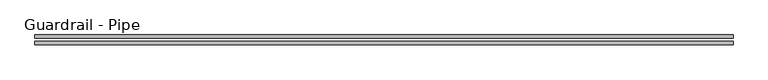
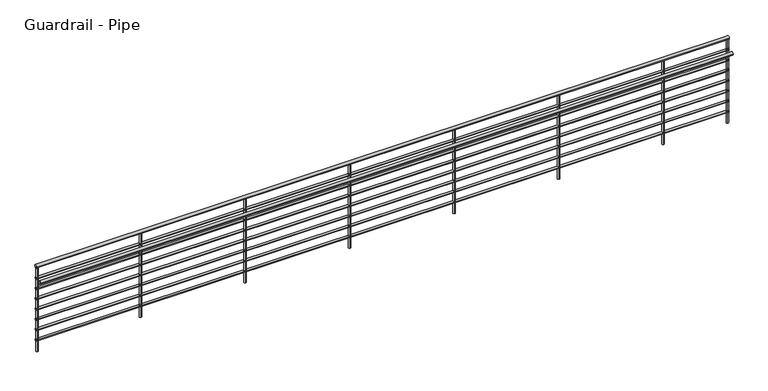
"""IFC4 building model written with IfcOpenShell, lengths in millimetres: railing geometry, Guardrail - Pipe."""

from ifc_helpers import new_model, si_unit, point, frame, frame_2d, origin, place, context, project, spatial, circle_curve, trimmed, segment, composite_curve, outline, extrude, source, transform, mapped, element, save


def guardrail_pipe_171f1288(model_context):
    return source(origin(), model_context, "Body", "SweptSolid", [
        extrude(outline(composite_curve([segment(trimmed(circle_curve(frame_2d((-540.1188057, 4400.55)), 19.05), [point((-559.1688057, 4400.55))], [point((-521.0688057, 4400.55))], False, "CARTESIAN"), True, "CONTINUOUS"), segment(trimmed(circle_curve(frame_2d((-540.1188057, 4400.55)), 19.05), [point((-521.0688057, 4400.55))], [point((-559.1688057, 4400.55))], False, "CARTESIAN"), True, "CONTINUOUS")], self_intersect=False)), frame((-21100.2602721, 0.0, 0.0), z_axis=(1.0, 0.0, 0.0), x_axis=(0.0, 1.0, 0.0)), (0.0, 0.0, 1.0), 8077.2),
        extrude(outline(composite_curve([segment(trimmed(circle_curve(frame_2d((-540.1188057, 4254.5)), 12.7), [point((-552.8188057, 4254.5))], [point((-527.4188057, 4254.5))], False, "CARTESIAN"), True, "CONTINUOUS"), segment(trimmed(circle_curve(frame_2d((-540.1188057, 4254.5)), 12.7), [point((-527.4188057, 4254.5))], [point((-552.8188057, 4254.5))], False, "CARTESIAN"), True, "CONTINUOUS")], self_intersect=False)), frame((-21100.2602721, 0.0, 0.0), z_axis=(1.0, 0.0, 0.0), x_axis=(0.0, 1.0, 0.0)), (0.0, 0.0, 1.0), 8077.2),
        extrude(outline(composite_curve([segment(trimmed(circle_curve(frame_2d((-616.3188057, 4248.15)), 19.05), [point((-635.3688057, 4248.15))], [point((-597.2688057, 4248.15))], False, "CARTESIAN"), True, "CONTINUOUS"), segment(trimmed(circle_curve(frame_2d((-616.3188057, 4248.15)), 19.05), [point((-597.2688057, 4248.15))], [point((-635.3688057, 4248.15))], False, "CARTESIAN"), True, "CONTINUOUS")], self_intersect=False)), frame((-21100.2602721, 0.0, 0.0), z_axis=(1.0, 0.0, 0.0), x_axis=(0.0, 1.0, 0.0)), (0.0, 0.0, 1.0), 8077.2),
        extrude(outline(composite_curve([segment(trimmed(circle_curve(frame_2d((-540.1188057, 4127.5)), 12.7), [point((-552.8188057, 4127.5))], [point((-527.4188057, 4127.5))], False, "CARTESIAN"), True, "CONTINUOUS"), segment(trimmed(circle_curve(frame_2d((-540.1188057, 4127.5)), 12.7), [point((-527.4188057, 4127.5))], [point((-552.8188057, 4127.5))], False, "CARTESIAN"), True, "CONTINUOUS")], self_intersect=False)), frame((-21100.2602721, 0.0, 0.0), z_axis=(1.0, 0.0, 0.0), x_axis=(0.0, 1.0, 0.0)), (0.0, 0.0, 1.0), 8077.2),
        extrude(outline(composite_curve([segment(trimmed(circle_curve(frame_2d((-540.1188057, 4000.5)), 12.7), [point((-552.8188057, 4000.5))], [point((-527.4188057, 4000.5))], False, "CARTESIAN"), True, "CONTINUOUS"), segment(trimmed(circle_curve(frame_2d((-540.1188057, 4000.5)), 12.7), [point((-527.4188057, 4000.5))], [point((-552.8188057, 4000.5))], False, "CARTESIAN"), True, "CONTINUOUS")], self_intersect=False)), frame((-21100.2602721, 0.0, 0.0), z_axis=(1.0, 0.0, 0.0), x_axis=(0.0, 1.0, 0.0)), (0.0, 0.0, 1.0), 8077.2),
        extrude(outline(composite_curve([segment(trimmed(circle_curve(frame_2d((-540.1188057, 3873.5)), 12.7), [point((-552.8188057, 3873.5))], [point((-527.4188057, 3873.5))], False, "CARTESIAN"), True, "CONTINUOUS"), segment(trimmed(circle_curve(frame_2d((-540.1188057, 3873.5)), 12.7), [point((-527.4188057, 3873.5))], [point((-552.8188057, 3873.5))], False, "CARTESIAN"), True, "CONTINUOUS")], self_intersect=False)), frame((-21100.2602721, 0.0, 0.0), z_axis=(1.0, 0.0, 0.0), x_axis=(0.0, 1.0, 0.0)), (0.0, 0.0, 1.0), 8077.2),
        extrude(outline(composite_curve([segment(trimmed(circle_curve(frame_2d((-540.1188057, 3746.5)), 12.7), [point((-552.8188057, 3746.5))], [point((-527.4188057, 3746.5))], False, "CARTESIAN"), True, "CONTINUOUS"), segment(trimmed(circle_curve(frame_2d((-540.1188057, 3746.5)), 12.7), [point((-527.4188057, 3746.5))], [point((-552.8188057, 3746.5))], False, "CARTESIAN"), True, "CONTINUOUS")], self_intersect=False)), frame((-21100.2602721, 0.0, 0.0), z_axis=(1.0, 0.0, 0.0), x_axis=(0.0, 1.0, 0.0)), (0.0, 0.0, 1.0), 8077.2),
        extrude(outline(composite_curve([segment(trimmed(circle_curve(frame_2d((-540.1188057, 3619.5)), 12.7), [point((-552.8188057, 3619.5))], [point((-527.4188057, 3619.5))], False, "CARTESIAN"), True, "CONTINUOUS"), segment(trimmed(circle_curve(frame_2d((-540.1188057, 3619.5)), 12.7), [point((-527.4188057, 3619.5))], [point((-552.8188057, 3619.5))], False, "CARTESIAN"), True, "CONTINUOUS")], self_intersect=False)), frame((-21100.2602721, 0.0, 0.0), z_axis=(1.0, 0.0, 0.0), x_axis=(0.0, 1.0, 0.0)), (0.0, 0.0, 1.0), 8077.2),
        extrude(outline(composite_curve([segment(trimmed(circle_curve(frame_2d((-540.1188057, 3492.5)), 12.7), [point((-552.8188057, 3492.5))], [point((-527.4188057, 3492.5))], False, "CARTESIAN"), True, "CONTINUOUS"), segment(trimmed(circle_curve(frame_2d((-540.1188057, 3492.5)), 12.7), [point((-527.4188057, 3492.5))], [point((-552.8188057, 3492.5))], False, "CARTESIAN"), True, "CONTINUOUS")], self_intersect=False)), frame((-21100.2602721, 0.0, 0.0), z_axis=(1.0, 0.0, 0.0), x_axis=(0.0, 1.0, 0.0)), (0.0, 0.0, 1.0), 8077.2),
        extrude(outline(composite_curve([segment(trimmed(circle_curve(frame_2d((-13785.0602721, -540.1188057)), 12.7), [point((-13785.0602721, -552.8188057))], [point((-13785.0602721, -527.4188057))], False, "CARTESIAN"), True, "CONTINUOUS"), segment(trimmed(circle_curve(frame_2d((-13785.0602721, -540.1188057)), 12.7), [point((-13785.0602721, -527.4188057))], [point((-13785.0602721, -552.8188057))], False, "CARTESIAN"), True, "CONTINUOUS")], self_intersect=False)), frame((0.0, 0.0, 3352.8), z_axis=(0.0, 0.0, 1.0), x_axis=(1.0, 0.0, 0.0)), (0.0, 0.0, 1.0), 1028.7),
        extrude(outline(composite_curve([segment(trimmed(circle_curve(frame_2d((-15004.2602721, -540.1188057)), 12.7), [point((-15004.2602721, -552.8188057))], [point((-15004.2602721, -527.4188057))], False, "CARTESIAN"), True, "CONTINUOUS"), segment(trimmed(circle_curve(frame_2d((-15004.2602721, -540.1188057)), 12.7), [point((-15004.2602721, -527.4188057))], [point((-15004.2602721, -552.8188057))], False, "CARTESIAN"), True, "CONTINUOUS")], self_intersect=False)), frame((0.0, 0.0, 3352.8), z_axis=(0.0, 0.0, 1.0), x_axis=(1.0, 0.0, 0.0)), (0.0, 0.0, 1.0), 1028.7),
        extrude(outline(composite_curve([segment(trimmed(circle_curve(frame_2d((-16223.4602721, -540.1188057)), 12.7), [point((-16223.4602721, -552.8188057))], [point((-16223.4602721, -527.4188057))], False, "CARTESIAN"), True, "CONTINUOUS"), segment(trimmed(circle_curve(frame_2d((-16223.4602721, -540.1188057)), 12.7), [point((-16223.4602721, -527.4188057))], [point((-16223.4602721, -552.8188057))], False, "CARTESIAN"), True, "CONTINUOUS")], self_intersect=False)), frame((0.0, 0.0, 3352.8), z_axis=(0.0, 0.0, 1.0), x_axis=(1.0, 0.0, 0.0)), (0.0, 0.0, 1.0), 1028.7),
        extrude(outline(composite_curve([segment(trimmed(circle_curve(frame_2d((-17442.6602721, -540.1188057)), 12.7), [point((-17442.6602721, -552.8188057))], [point((-17442.6602721, -527.4188057))], False, "CARTESIAN"), True, "CONTINUOUS"), segment(trimmed(circle_curve(frame_2d((-17442.6602721, -540.1188057)), 12.7), [point((-17442.6602721, -527.4188057))], [point((-17442.6602721, -552.8188057))], False, "CARTESIAN"), True, "CONTINUOUS")], self_intersect=False)), frame((0.0, 0.0, 3352.8), z_axis=(0.0, 0.0, 1.0), x_axis=(1.0, 0.0, 0.0)), (0.0, 0.0, 1.0), 1028.7),
        extrude(outline(composite_curve([segment(trimmed(circle_curve(frame_2d((-18661.8602721, -540.1188057)), 12.7), [point((-18661.8602721, -552.8188057))], [point((-18661.8602721, -527.4188057))], False, "CARTESIAN"), True, "CONTINUOUS"), segment(trimmed(circle_curve(frame_2d((-18661.8602721, -540.1188057)), 12.7), [point((-18661.8602721, -527.4188057))], [point((-18661.8602721, -552.8188057))], False, "CARTESIAN"), True, "CONTINUOUS")], self_intersect=False)), frame((0.0, 0.0, 3352.8), z_axis=(0.0, 0.0, 1.0), x_axis=(1.0, 0.0, 0.0)), (0.0, 0.0, 1.0), 1028.7),
        extrude(outline(composite_curve([segment(trimmed(circle_curve(frame_2d((-19881.0602721, -540.1188057)), 12.7), [point((-19881.0602721, -552.8188057))], [point((-19881.0602721, -527.4188057))], False, "CARTESIAN"), True, "CONTINUOUS"), segment(trimmed(circle_curve(frame_2d((-19881.0602721, -540.1188057)), 12.7), [point((-19881.0602721, -527.4188057))], [point((-19881.0602721, -552.8188057))], False, "CARTESIAN"), True, "CONTINUOUS")], self_intersect=False)), frame((0.0, 0.0, 3352.8), z_axis=(0.0, 0.0, 1.0), x_axis=(1.0, 0.0, 0.0)), (0.0, 0.0, 1.0), 1028.7),
        extrude(outline(composite_curve([segment(trimmed(circle_curve(frame_2d((-13035.7602721, -540.1188057)), 12.7), [point((-13035.7602721, -552.8188057))], [point((-13035.7602721, -527.4188057))], False, "CARTESIAN"), True, "CONTINUOUS"), segment(trimmed(circle_curve(frame_2d((-13035.7602721, -540.1188057)), 12.7), [point((-13035.7602721, -527.4188057))], [point((-13035.7602721, -552.8188057))], False, "CARTESIAN"), True, "CONTINUOUS")], self_intersect=False)), frame((0.0, 0.0, 3352.8), z_axis=(0.0, 0.0, 1.0), x_axis=(1.0, 0.0, 0.0)), (0.0, 0.0, 1.0), 1028.7),
        extrude(outline(composite_curve([segment(trimmed(circle_curve(frame_2d((-21087.5602721, -540.1188057)), 12.7), [point((-21087.5602721, -552.8188057))], [point((-21087.5602721, -527.4188057))], False, "CARTESIAN"), True, "CONTINUOUS"), segment(trimmed(circle_curve(frame_2d((-21087.5602721, -540.1188057)), 12.7), [point((-21087.5602721, -527.4188057))], [point((-21087.5602721, -552.8188057))], False, "CARTESIAN"), True, "CONTINUOUS")], self_intersect=False)), frame((0.0, 0.0, 3352.8), z_axis=(0.0, 0.0, 1.0), x_axis=(1.0, 0.0, 0.0)), (0.0, 0.0, 1.0), 1028.7),
    ])


if __name__ == "__main__":
    model = new_model("IFC4")
    model_context = context("Model", 3, world=origin())
    ifc_project = project(units=[si_unit("LENGTHUNIT", "METRE", prefix="MILLI")], contexts=[model_context])
    site = spatial("IfcSite", under=ifc_project)
    building = spatial("IfcBuilding", under=site)
    placement = place(None, origin())
    guardrail_pipe_shape = guardrail_pipe_171f1288(model_context)
    element("IfcRailing", 1, ObjectType="Guardrail - Pipe", at=placement, inside=building, context=model_context, shape_type="MappedRepresentation", body=[
        mapped(guardrail_pipe_shape, transform((0.0, 0.0, 0.0), x_axis=(1.0, 0.0, 0.0), y_axis=(0.0, 1.0, 0.0), z_axis=(0.0, 0.0, 1.0))),
    ])
    save(model, "model.ifc")
